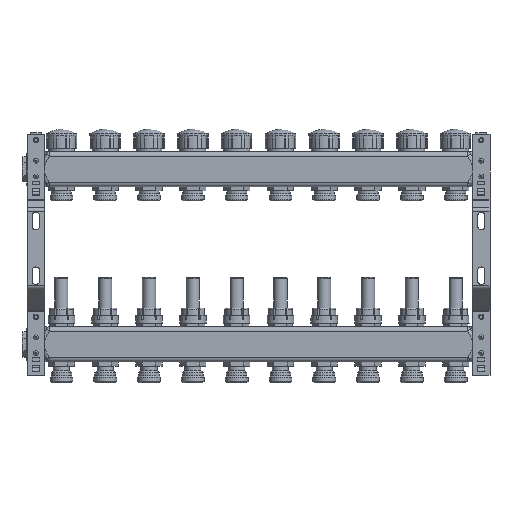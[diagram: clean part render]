
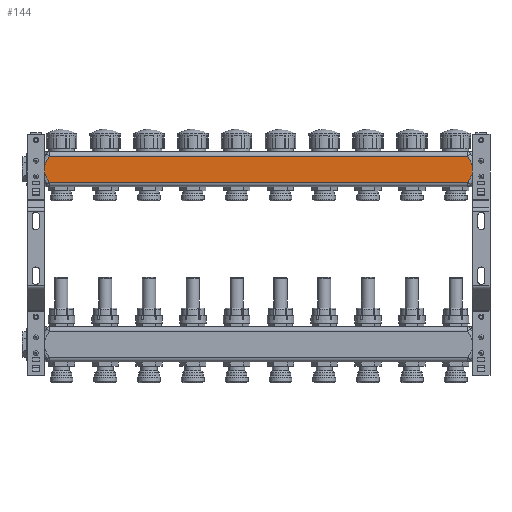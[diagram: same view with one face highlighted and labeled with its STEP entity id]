
A CAD part, front view. The second image highlights one B-rep face of the part: STEP entity #144.
In plain terms, the highlighted planar face has unit normal (0, -1, 0).
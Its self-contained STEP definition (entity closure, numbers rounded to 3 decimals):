
#144=ADVANCED_FACE('',(#3409),#3411,.T.);
#3409=FACE_BOUND('',#3410,.T.);
#3410=EDGE_LOOP('',(#18762,#18763,#18764,#18765));
#3411=PLANE('',#3412);
#3412=AXIS2_PLACEMENT_3D('',#3413,#3414,#3415);
#3413=CARTESIAN_POINT('',(1.7,19.8,-19.65));
#3414=DIRECTION('',(0.,-1.,0.));
#3415=DIRECTION('',(0.,0.,-1.));
#18762=ORIENTED_EDGE('',*,*,#28115,.T.);
#18763=ORIENTED_EDGE('',*,*,#28116,.F.);
#18764=ORIENTED_EDGE('',*,*,#27835,.T.);
#18765=ORIENTED_EDGE('',*,*,#28117,.T.);
#27835=EDGE_CURVE('',#32756,#32754,#32757,.T.);
#28115=EDGE_CURVE('',#33225,#33226,#33227,.T.);
#28116=EDGE_CURVE('',#32756,#33226,#33228,.T.);
#28117=EDGE_CURVE('',#32754,#33225,#33229,.T.);
#32754=VERTEX_POINT('',#43011);
#32756=VERTEX_POINT('',#43016);
#32757=B_SPLINE_CURVE_WITH_KNOTS('',3,
(#43017,#43018,#43019,#43020,#43021,#43022,#43023,#43024,#43025,#43026,#43027,#43028,
#43029,#43030,#43031,#43032,#43033,#43034,#43035,#43036,#43037,#43038,#43039,#43040),
.UNSPECIFIED.,.F.,.F.,
(4,1,1,1,1,1,1,1,1,1,1,1,1,1,1,1,1,1,1,1,1,4),
(0.,0.066,0.123,0.171,0.221,0.271,
0.322,0.369,0.413,0.45,0.485,
0.521,0.557,0.597,0.64,0.687,
0.738,0.789,0.841,0.891,0.945,
1.),
.UNSPECIFIED.);
#33225=VERTEX_POINT('',#45277);
#33226=VERTEX_POINT('',#45278);
#33227=B_SPLINE_CURVE_WITH_KNOTS('',3,
(#45279,#45280,#45281,#45282,#45283,#45284,#45285,#45286,#45287,#45288,#45289,#45290,
#45291,#45292,#45293,#45294,#45295,#45296,#45297,#45298,#45299,#45300,#45301,#45302),
.UNSPECIFIED.,.F.,.F.,
(4,1,1,1,1,1,1,1,1,1,1,1,1,1,1,1,1,1,1,1,1,4),
(0.,0.066,0.123,0.171,0.221,0.271,
0.322,0.369,0.413,0.45,0.485,
0.521,0.557,0.597,0.64,0.687,
0.738,0.789,0.841,0.891,0.945,
1.),
.UNSPECIFIED.);
#33228=LINE('',#45303,#45304);
#33229=LINE('',#45306,#45307);
#43011=CARTESIAN_POINT('',(25.634,19.8,-54.65));
#43016=CARTESIAN_POINT('',(25.634,19.8,-24.65));
#43017=CARTESIAN_POINT('',(25.634,19.8,-24.65));
#43018=CARTESIAN_POINT('',(25.196,19.8,-25.269));
#43019=CARTESIAN_POINT('',(24.401,19.8,-26.43));
#43020=CARTESIAN_POINT('',(23.362,19.8,-28.064));
#43021=CARTESIAN_POINT('',(22.485,19.8,-29.562));
#43022=CARTESIAN_POINT('',(21.717,19.8,-31.008));
#43023=CARTESIAN_POINT('',(21.012,19.8,-32.516));
#43024=CARTESIAN_POINT('',(20.421,19.8,-34.022));
#43025=CARTESIAN_POINT('',(19.968,19.8,-35.487));
#43026=CARTESIAN_POINT('',(19.669,19.8,-36.817));
#43027=CARTESIAN_POINT('',(19.494,19.8,-38.033));
#43028=CARTESIAN_POINT('',(19.414,19.8,-39.176));
#43029=CARTESIAN_POINT('',(19.421,19.8,-40.315));
#43030=CARTESIAN_POINT('',(19.518,19.8,-41.495));
#43031=CARTESIAN_POINT('',(19.72,19.8,-42.746));
#43032=CARTESIAN_POINT('',(20.047,19.8,-44.096));
#43033=CARTESIAN_POINT('',(20.52,19.8,-45.553));
#43034=CARTESIAN_POINT('',(21.134,19.8,-47.064));
#43035=CARTESIAN_POINT('',(21.87,19.8,-48.596));
#43036=CARTESIAN_POINT('',(22.685,19.8,-50.094));
#43037=CARTESIAN_POINT('',(23.586,19.8,-51.598));
#43038=CARTESIAN_POINT('',(24.565,19.8,-53.112));
#43039=CARTESIAN_POINT('',(25.27,19.8,-54.135));
#43040=CARTESIAN_POINT('',(25.634,19.8,-54.65));
#45277=CARTESIAN_POINT('',(502.766,19.8,-54.65));
#45278=CARTESIAN_POINT('',(502.766,19.8,-24.65));
#45279=CARTESIAN_POINT('',(502.766,19.8,-54.65));
#45280=CARTESIAN_POINT('',(503.204,19.8,-54.031));
#45281=CARTESIAN_POINT('',(503.999,19.8,-52.87));
#45282=CARTESIAN_POINT('',(505.038,19.8,-51.236));
#45283=CARTESIAN_POINT('',(505.915,19.8,-49.738));
#45284=CARTESIAN_POINT('',(506.683,19.8,-48.292));
#45285=CARTESIAN_POINT('',(507.388,19.8,-46.784));
#45286=CARTESIAN_POINT('',(507.979,19.8,-45.278));
#45287=CARTESIAN_POINT('',(508.432,19.8,-43.813));
#45288=CARTESIAN_POINT('',(508.731,19.8,-42.483));
#45289=CARTESIAN_POINT('',(508.906,19.8,-41.267));
#45290=CARTESIAN_POINT('',(508.986,19.8,-40.124));
#45291=CARTESIAN_POINT('',(508.979,19.8,-38.985));
#45292=CARTESIAN_POINT('',(508.882,19.8,-37.805));
#45293=CARTESIAN_POINT('',(508.68,19.8,-36.554));
#45294=CARTESIAN_POINT('',(508.353,19.8,-35.204));
#45295=CARTESIAN_POINT('',(507.88,19.8,-33.747));
#45296=CARTESIAN_POINT('',(507.266,19.8,-32.236));
#45297=CARTESIAN_POINT('',(506.53,19.8,-30.704));
#45298=CARTESIAN_POINT('',(505.715,19.8,-29.206));
#45299=CARTESIAN_POINT('',(504.814,19.8,-27.702));
#45300=CARTESIAN_POINT('',(503.835,19.8,-26.188));
#45301=CARTESIAN_POINT('',(503.13,19.8,-25.165));
#45302=CARTESIAN_POINT('',(502.766,19.8,-24.65));
#45303=CARTESIAN_POINT('',(25.634,19.8,-24.65));
#45304=VECTOR('',#45305,1.);
#45305=DIRECTION('',(1.,0.,0.));
#45306=CARTESIAN_POINT('',(25.634,19.8,-54.65));
#45307=VECTOR('',#45308,1.);
#45308=DIRECTION('',(1.,0.,0.));
